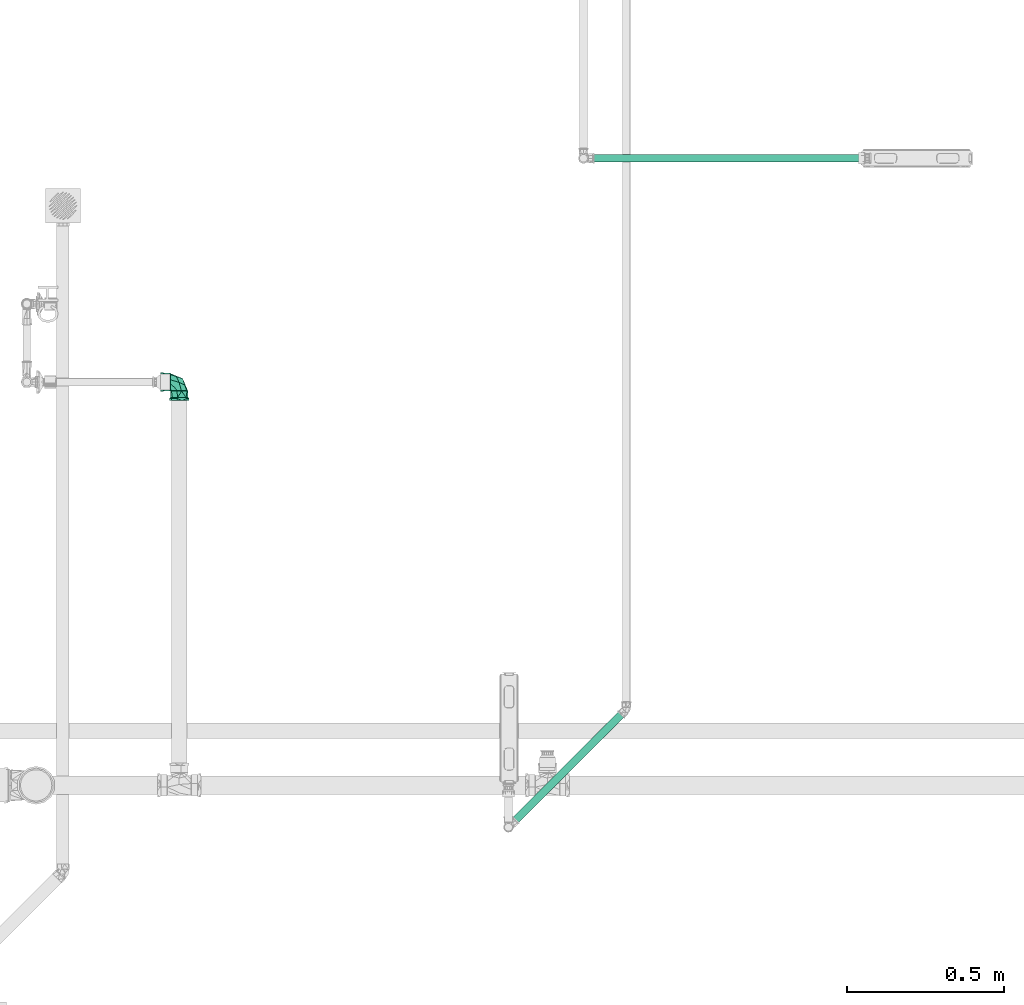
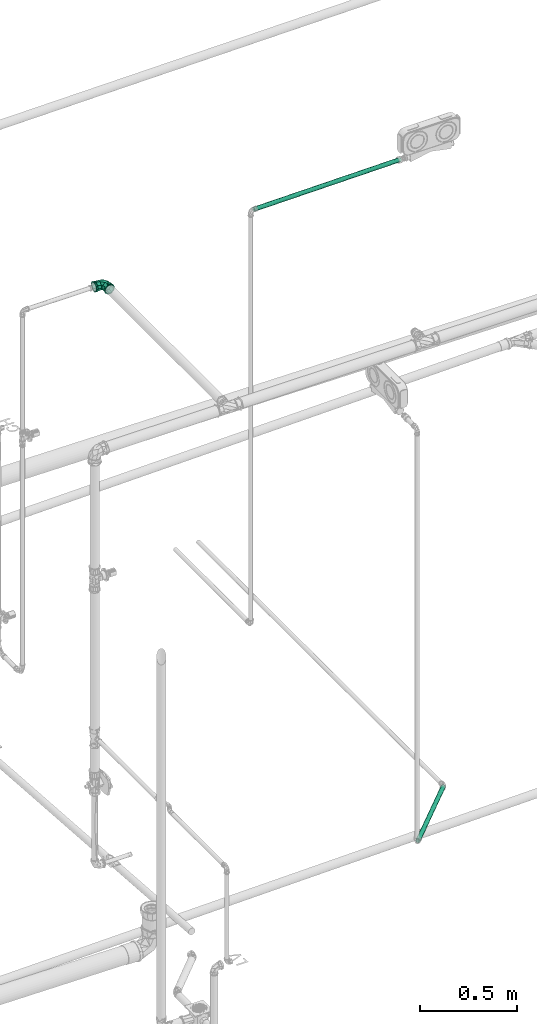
# One storey, part 95 of 589: 2 flow segments, 1 flow fitting.
"""IFC2X3 building model written with IfcOpenShell, lengths in millimetres."""

import ifcopenshell
import ifcopenshell.guid

model = None  # the IFC model being written
_history = None  # IfcOwnerHistory: only IFC2X3 demands one
_inside = {}  # id of a spatial element -> (the spatial element, [elements in it])
_under = {}  # id of a project, library or spatial element -> (it, [spatial elements below it])
_declared = {}  # id of a project -> (the project, [libraries it declares])
_typed = {}  # id of a type object -> (the type object, [elements of that type])
_made_of = {}  # id of a material, layer set ... -> (it, [elements and type objects made of it])


def new_model(schema):
    """Start an empty IFC model of exactly this schema.

    Asked for "IFC4X3", IfcOpenShell would pick the latest addendum, in which some entities
    have other attributes; the version numbers below select the first issue.
    IFC2X3 requires an IfcOwnerHistory on every rooted entity: one is made here for all.
    """
    global model, _history
    if schema == "IFC4X3":
        model = ifcopenshell.file(schema_version=(4, 3, 0, 0))
    else:
        model = ifcopenshell.file(schema=schema)
    _inside.clear()
    _under.clear()
    _declared.clear()
    _typed.clear()
    _made_of.clear()
    _history = None
    if model.schema == "IFC2X3":
        org = make("IfcOrganization", Name="unknown")
        user = make(
            "IfcPersonAndOrganization",
            ThePerson=make("IfcPerson", FamilyName="unknown"),
            TheOrganization=org,
        )
        app = make(
            "IfcApplication",
            ApplicationDeveloper=org,
            Version="unknown",
            ApplicationFullName="unknown",
            ApplicationIdentifier="unknown",
        )
        _history = make(
            "IfcOwnerHistory",
            OwningUser=user,
            OwningApplication=app,
            ChangeAction="ADDED",
            CreationDate=0,
        )
    return model


def make(cls, **values):
    """One entity of the class cls with the attributes given. An attribute that is None is left unset."""
    return model.create_entity(
        cls, **{name: value for name, value in values.items() if value is not None}
    )


def entity(cls, *values):
    """Any entity or typed value of the class cls, its attributes in the order of the schema. None: left unset."""
    e = model.create_entity(cls)
    for i, value in enumerate(values):
        if value is not None:
            e[i] = value
    return e


def rooted(cls, **values):
    """An entity with a GlobalId (a new one), such as an element, a storey or a relation."""
    return make(cls, GlobalId=ifcopenshell.guid.new(), OwnerHistory=_history, **values)


def si_unit(unit_type, name, prefix=None):
    """IfcSIUnit, for example si_unit("LENGTHUNIT", "METRE", prefix="MILLI")."""
    return make("IfcSIUnit", UnitType=unit_type, Prefix=prefix, Name=name)


def converted_unit(unit_type, name, factor, base, dimensions=None, offset=None):
    """IfcConversionBasedUnit, such as the inch: factor (a typed value) times the base unit."""
    return make(
        "IfcConversionBasedUnit"
        if offset is None
        else "IfcConversionBasedUnitWithOffset",
        ConversionOffset=offset,
        Dimensions=None
        if dimensions is None
        else entity("IfcDimensionalExponents", *dimensions),
        UnitType=unit_type,
        Name=name,
        ConversionFactor=make(
            "IfcMeasureWithUnit", ValueComponent=factor, UnitComponent=base
        ),
    )


def derived_unit(unit_type, elements):
    """IfcDerivedUnit: a product of units, each with its exponent."""
    return make(
        "IfcDerivedUnit",
        Elements=[
            make("IfcDerivedUnitElement", Unit=unit, Exponent=power)
            for unit, power in elements
        ],
        UnitType=unit_type,
    )


def assignment(units):
    """IfcUnitAssignment: the units of a project."""
    return None if units is None else make("IfcUnitAssignment", Units=units)


def point(xyz):
    """IfcCartesianPoint."""
    return None if xyz is None else make("IfcCartesianPoint", Coordinates=xyz)


def direction(xyz):
    """IfcDirection."""
    return None if xyz is None else make("IfcDirection", DirectionRatios=xyz)


def frame(location, z_axis=None, x_axis=None):
    """IfcAxis2Placement3D, a coordinate frame: its origin and axes. An axis left out is left unset."""
    return make(
        "IfcAxis2Placement3D",
        Location=point(location),
        Axis=direction(z_axis),
        RefDirection=direction(x_axis),
    )


def frame_2d(location, x_axis=None):
    """IfcAxis2Placement2D, a coordinate frame in the plane: its origin and x axis."""
    return make(
        "IfcAxis2Placement2D", Location=point(location), RefDirection=direction(x_axis)
    )


def origin():
    """The frame at (0, 0, 0) with its axes left unset."""
    return frame((0.0, 0.0, 0.0))


def origin_2d_with_axis():
    """The frame at (0, 0) in the plane with the x axis (1, 0) written out."""
    return frame_2d((0.0, 0.0), x_axis=(1.0, 0.0))


def place(relative_to, where):
    """IfcLocalPlacement: puts the frame where relative to a parent placement (None: the world)."""
    return make(
        "IfcLocalPlacement", PlacementRelTo=relative_to, RelativePlacement=where
    )


def context(
    kind, dimensions, precision=None, world=None, true_north=None, identifier=None
):
    """IfcGeometricRepresentationContext, for example the 3D "Model" context."""
    return make(
        "IfcGeometricRepresentationContext",
        ContextIdentifier=identifier,
        ContextType=kind,
        CoordinateSpaceDimension=dimensions,
        Precision=precision,
        WorldCoordinateSystem=world,
        TrueNorth=true_north,
    )


def subcontext(parent, identifier, kind, view, scale=None):
    """IfcGeometricRepresentationSubContext, for example "Body" below "Model"."""
    return make(
        "IfcGeometricRepresentationSubContext",
        ContextIdentifier=identifier,
        ContextType=kind,
        ParentContext=parent,
        TargetScale=scale,
        TargetView=view,
    )


def project(units=None, contexts=None):
    """IfcProject with its units and contexts."""
    return rooted(
        "IfcProject",
        Name="project",
        RepresentationContexts=contexts,
        UnitsInContext=assignment(units),
    )


def spatial(cls, under=None, at=None, **own):
    """A site, building, storey or space (cls), placed at a placement, below another one or the project."""
    s = rooted(cls, ObjectPlacement=at, **own)
    if under is not None:
        _under.setdefault(under.id(), (under, []))[1].append(s)
    return s


def profile(cls, at=None, kind="AREA", **sizes):
    """A parametric profile (cls). Its sizes go by their IFC names, for example OverallWidth=200.0."""
    return make(cls, ProfileType=kind, Position=at, **sizes)


def circle(**sizes):
    """IfcCircleProfileDef."""
    return profile("IfcCircleProfileDef", **sizes)


def extrude(swept, where, along, depth):
    """IfcExtrudedAreaSolid: the profile swept, set in the frame where, extruded along a direction by depth."""
    return make(
        "IfcExtrudedAreaSolid",
        SweptArea=swept,
        Position=where,
        ExtrudedDirection=direction(along),
        Depth=depth,
    )


def faces_of(points, faces, orient=None, outer=None):
    """IfcFace entities. A face is a list of loops; a loop is a list of indices into points, from 0.

    orient and outer hold one flag for each loop. By default every Orientation is true, the
    first loop of a face is its IfcFaceOuterBound and the others are IfcFaceBound.
    """
    made = []
    for i, loops in enumerate(faces):
        bounds = []
        for j, loop in enumerate(loops):
            is_outer = j == 0 if outer is None else outer[i][j]
            bounds.append(
                make(
                    "IfcFaceOuterBound" if is_outer else "IfcFaceBound",
                    Bound=make("IfcPolyLoop", Polygon=[points[k] for k in loop]),
                    Orientation=True if orient is None else orient[i][j],
                )
            )
        made.append(make("IfcFace", Bounds=bounds))
    return made


def faceted_brep(points, faces, orient=None, outer=None, voids=None):
    """IfcFacetedBrep: a solid bounded by flat faces; with voids (closed shells), ...WithVoids."""
    shared = [point(p) for p in points]
    hull = make("IfcClosedShell", CfsFaces=faces_of(shared, faces, orient, outer))
    if voids is None:
        return make("IfcFacetedBrep", Outer=hull)
    return make(
        "IfcFacetedBrepWithVoids",
        Outer=hull,
        Voids=[
            make(cls, CfsFaces=faces_of(shared, fs, o, b)) for cls, fs, o, b in voids
        ],
    )


def shape(context_of_items, identifier, shape_type, items):
    """IfcShapeRepresentation: the items that make up one representation, for example the "Body"."""
    return make(
        "IfcShapeRepresentation",
        ContextOfItems=context_of_items,
        RepresentationIdentifier=identifier,
        RepresentationType=shape_type,
        Items=items,
    )


def source(mapping_origin, context_of_items, identifier, shape_type, items):
    """IfcRepresentationMap: a shape defined once, which mapped items show again and again."""
    return make(
        "IfcRepresentationMap",
        MappingOrigin=mapping_origin,
        MappedRepresentation=shape(context_of_items, identifier, shape_type, items),
    )


def transform(
    local_origin,
    x_axis=None,
    y_axis=None,
    z_axis=None,
    scale=None,
    scale2=None,
    scale3=None,
    uniform=True,
):
    """IfcCartesianTransformationOperator3D, or its non-uniform kind. x_axis, y_axis, z_axis: its Axis1, 2, 3."""
    if uniform:
        return make(
            "IfcCartesianTransformationOperator3D",
            Axis1=direction(x_axis),
            Axis2=direction(y_axis),
            LocalOrigin=point(local_origin),
            Scale=scale,
            Axis3=direction(z_axis),
        )
    return make(
        "IfcCartesianTransformationOperator3DnonUniform",
        Axis1=direction(x_axis),
        Axis2=direction(y_axis),
        LocalOrigin=point(local_origin),
        Scale=scale,
        Axis3=direction(z_axis),
        Scale2=scale2,
        Scale3=scale3,
    )


def mapped(mapping_source, mapping_target):
    """IfcMappedItem: shows the shape of a source again, moved by a transform."""
    return make(
        "IfcMappedItem", MappingSource=mapping_source, MappingTarget=mapping_target
    )


def material(Name=None, Category=None):
    """IfcMaterial."""
    return make("IfcMaterial", Name=Name, Category=Category)


def made_of(thing, what):
    """Note that an element or type object is made of a material, layer set ...; save() writes the relation."""
    if what is not None:
        _made_of.setdefault(what.id(), (what, []))[1].append(thing)
    return thing


def type_object(cls, material=None, **own):
    """A type object (cls), such as IfcWallType, which elements share."""
    return made_of(rooted(cls, **own), material)


def type_shapes(of_type, sources):
    """Give a type object the sources (RepresentationMaps) that its elements show as mapped items."""
    of_type.RepresentationMaps = sources


def element(
    cls,
    number,
    at=None,
    inside=None,
    cuts=None,
    type_object=None,
    material=None,
    context=None,
    identifier="Body",
    shape_type=None,
    held_by="IfcProductDefinitionShape",
    body=None,
    shapes=None,
    **own,
):
    """One element of the class cls, such as IfcWall. Its Tag is "e" and its number.

    at: its placement. inside: the storey or other place that contains it. cuts: it is an
    opening in that element (IfcRelVoidsElement). A single representation is given by context,
    identifier, shape_type and body (its items); several are given by shapes. held_by: the class
    of the entity that holds the representations. save() writes the other relations.
    """
    e = rooted(cls, Tag="e%d" % number, ObjectPlacement=at, **own)
    if body is not None:
        shapes = [shape(context, identifier, shape_type, body)]
    if shapes is not None:
        e.Representation = make(held_by, Representations=shapes)
    if inside is not None:
        _inside.setdefault(inside.id(), (inside, []))[1].append(e)
    if cuts is not None:
        rooted(
            "IfcRelVoidsElement", RelatingBuildingElement=cuts, RelatedOpeningElement=e
        )
    if type_object is not None:
        _typed.setdefault(type_object.id(), (type_object, []))[1].append(e)
    return made_of(e, material)


def aggregate(whole, parts):
    """IfcRelAggregates: a whole, such as a stair, and the parts it consists of."""
    return rooted("IfcRelAggregates", RelatingObject=whole, RelatedObjects=parts)


def save(model, path):
    """Write the relations noted so far, then the file.

    IfcRelAggregates (storeys below a building ...), IfcRelContainedInSpatialStructure (elements
    in a storey), IfcRelDefinesByType, IfcRelAssociatesMaterial and IfcRelDeclares: one each for
    every whole, place, type object, material and project.
    """
    for whole, parts in _under.values():
        aggregate(whole, parts)
    for where, things in _inside.values():
        rooted(
            "IfcRelContainedInSpatialStructure",
            RelatedElements=things,
            RelatingStructure=where,
        )
    for kind, things in _typed.values():
        rooted("IfcRelDefinesByType", RelatedObjects=things, RelatingType=kind)
    for what, things in _made_of.values():
        rooted("IfcRelAssociatesMaterial", RelatedObjects=things, RelatingMaterial=what)
    for by, libraries in _declared.values():
        rooted("IfcRelDeclares", RelatingContext=by, RelatedDefinitions=libraries)
    model.write(path)


model = new_model("IFC2X3")

# Units and contexts
model_context = context("Model", 3, precision=0.01, world=origin(), true_north=direction((6.123031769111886e-17, 1.0)))
body_context = subcontext(model_context, "Body", "Model", "MODEL_VIEW")
ifc_project = project(units=[si_unit("LENGTHUNIT", "METRE", prefix="MILLI"), si_unit("AREAUNIT", "SQUARE_METRE"), si_unit("VOLUMEUNIT", "CUBIC_METRE"), converted_unit("PLANEANGLEUNIT", "DEGREE", entity("IfcRatioMeasure", 0.017453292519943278), si_unit("PLANEANGLEUNIT", "RADIAN"), dimensions=[0, 0, 0, 0, 0, 0, 0]), si_unit("MASSUNIT", "GRAM", prefix="KILO"), derived_unit("MASSDENSITYUNIT", [(si_unit("MASSUNIT", "GRAM", prefix="KILO"), 1), (si_unit("LENGTHUNIT", "METRE"), -3)]), derived_unit("IONCONCENTRATIONUNIT", [(si_unit("MASSUNIT", "GRAM", prefix="KILO"), 1), (si_unit("LENGTHUNIT", "METRE"), -3)]), derived_unit("MOMENTOFINERTIAUNIT", [(si_unit("LENGTHUNIT", "METRE"), 4)]), si_unit("TIMEUNIT", "SECOND"), si_unit("FREQUENCYUNIT", "HERTZ"), si_unit("THERMODYNAMICTEMPERATUREUNIT", "DEGREE_CELSIUS"), derived_unit("THERMALTRANSMITTANCEUNIT", [(si_unit("MASSUNIT", "GRAM", prefix="KILO"), 1), (si_unit("THERMODYNAMICTEMPERATUREUNIT", "KELVIN"), -1), (si_unit("TIMEUNIT", "SECOND"), -3)]), derived_unit("THERMALCONDUCTANCEUNIT", [(si_unit("MASSUNIT", "GRAM", prefix="KILO"), 1), (si_unit("THERMODYNAMICTEMPERATUREUNIT", "KELVIN"), -1), (si_unit("TIMEUNIT", "SECOND"), -3), (si_unit("LENGTHUNIT", "METRE"), 1)]), derived_unit("VOLUMETRICFLOWRATEUNIT", [(si_unit("LENGTHUNIT", "METRE"), 3), (si_unit("TIMEUNIT", "SECOND"), -1)]), derived_unit("MASSFLOWRATEUNIT", [(si_unit("MASSUNIT", "GRAM", prefix="KILO"), 1), (si_unit("TIMEUNIT", "SECOND"), -1)]), derived_unit("ROTATIONALFREQUENCYUNIT", [(si_unit("TIMEUNIT", "SECOND"), -1)]), si_unit("ELECTRICCURRENTUNIT", "AMPERE"), si_unit("ELECTRICVOLTAGEUNIT", "VOLT"), si_unit("POWERUNIT", "WATT"), si_unit("FORCEUNIT", "NEWTON", prefix="KILO"), si_unit("ILLUMINANCEUNIT", "LUX"), si_unit("LUMINOUSFLUXUNIT", "LUMEN"), si_unit("LUMINOUSINTENSITYUNIT", "CANDELA"), derived_unit("USERDEFINED", [(si_unit("MASSUNIT", "GRAM", prefix="KILO"), -1), (si_unit("LENGTHUNIT", "METRE"), -2), (si_unit("TIMEUNIT", "SECOND"), 3), (si_unit("LUMINOUSFLUXUNIT", "LUMEN"), 1)]), derived_unit("USERDEFINED", [(si_unit("MASSUNIT", "GRAM", prefix="KILO"), 1), (si_unit("TIMEUNIT", "SECOND"), -3), (si_unit("LENGTHUNIT", "METRE"), 3), (si_unit("ELECTRICCURRENTUNIT", "AMPERE"), -2)]), derived_unit("SOUNDPOWERUNIT", [(si_unit("MASSUNIT", "GRAM", prefix="KILO"), 1), (si_unit("TIMEUNIT", "SECOND"), -3), (si_unit("LENGTHUNIT", "METRE"), 2)]), derived_unit("SOUNDPRESSUREUNIT", [(si_unit("MASSUNIT", "GRAM", prefix="KILO"), 1), (si_unit("LENGTHUNIT", "METRE"), -1), (si_unit("TIMEUNIT", "SECOND"), -2)]), derived_unit("LINEARVELOCITYUNIT", [(si_unit("LENGTHUNIT", "METRE"), 1), (si_unit("TIMEUNIT", "SECOND"), -1)]), si_unit("PRESSUREUNIT", "PASCAL"), derived_unit("USERDEFINED", [(si_unit("MASSUNIT", "GRAM", prefix="KILO"), 1), (si_unit("LENGTHUNIT", "METRE"), -2), (si_unit("TIMEUNIT", "SECOND"), -2)]), derived_unit("LINEARFORCEUNIT", [(si_unit("MASSUNIT", "GRAM", prefix="KILO"), 1), (si_unit("TIMEUNIT", "SECOND"), -2)]), derived_unit("PLANARFORCEUNIT", [(si_unit("MASSUNIT", "GRAM", prefix="KILO"), 1), (si_unit("LENGTHUNIT", "METRE"), -1), (si_unit("TIMEUNIT", "SECOND"), -2)]), derived_unit("SPECIFICHEATCAPACITYUNIT", [(si_unit("THERMODYNAMICTEMPERATUREUNIT", "KELVIN"), -1), (si_unit("LENGTHUNIT", "METRE"), 2), (si_unit("TIMEUNIT", "SECOND"), -2)]), derived_unit("HEATINGVALUEUNIT", [(si_unit("LENGTHUNIT", "METRE"), 2), (si_unit("TIMEUNIT", "SECOND"), -2)]), derived_unit("VAPORPERMEABILITYUNIT", [(si_unit("LENGTHUNIT", "METRE"), -1), (si_unit("TIMEUNIT", "SECOND"), 1)]), derived_unit("DYNAMICVISCOSITYUNIT", [(si_unit("MASSUNIT", "GRAM", prefix="KILO"), 1), (si_unit("TIMEUNIT", "SECOND"), -1), (si_unit("LENGTHUNIT", "METRE"), -1)]), derived_unit("THERMALEXPANSIONCOEFFICIENTUNIT", [(si_unit("THERMODYNAMICTEMPERATUREUNIT", "KELVIN"), -1)]), derived_unit("MODULUSOFELASTICITYUNIT", [(si_unit("MASSUNIT", "GRAM", prefix="KILO"), 1), (si_unit("LENGTHUNIT", "METRE"), -1), (si_unit("TIMEUNIT", "SECOND"), -2)]), derived_unit("ISOTHERMALMOISTURECAPACITYUNIT", [(si_unit("LENGTHUNIT", "METRE"), 3), (si_unit("MASSUNIT", "GRAM", prefix="KILO"), -1)]), derived_unit("MOISTUREDIFFUSIVITYUNIT", [(si_unit("TIMEUNIT", "SECOND"), -1), (si_unit("LENGTHUNIT", "METRE"), 2)])], contexts=[model_context])

# Site, building, storey
site_placement = place(None, origin())
site = spatial("IfcSite", under=ifc_project, at=site_placement, Name="Default", CompositionType="ELEMENT")
building_placement = place(site_placement, origin())
building = spatial("IfcBuilding", under=site, at=building_placement, CompositionType="ELEMENT")
storey_placement = place(building_placement, frame((0.0, 0.0, 100.0)))
storey = spatial("IfcBuildingStorey", under=building, at=storey_placement, Name="TÉRREO", CompositionType="ELEMENT", Elevation=100.0)

# Flow segments
pipe_segment_type = type_object("IfcPipeSegmentType", Name="Tipos de tubos:PVC Marrom Soldável", PredefinedType="NOTDEFINED")
flow_segment_1_placement = place(storey_placement, origin())
element("IfcFlowSegment", 1, at=flow_segment_1_placement, inside=storey, type_object=pipe_segment_type, Name="Tipos de tubos:PVC Marrom Soldável", ObjectType="Tipos de tubos:PVC Marrom Soldável", context=body_context, shape_type="SweptSolid", body=[
    extrude(circle(Radius=12.5, at=origin_2d_with_axis()), frame((-5457.676437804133, 1472.3181323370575, 2577.9470883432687), z_axis=(0.9999500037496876, 0.0, 0.00999950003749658), x_axis=(0.0, 1.0, 0.0)), (0.0, 0.0, 1.0), 877.005019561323),
])
flow_segment_2_placement = place(storey_placement, origin())
element("IfcFlowSegment", 2, at=flow_segment_2_placement, inside=storey, type_object=pipe_segment_type, Name="Tipos de tubos:PVC Marrom Soldável", ObjectType="Tipos de tubos:PVC Marrom Soldável", context=body_context, shape_type="SweptSolid", body=[
    extrude(circle(Radius=12.5, at=frame_2d((1.4832924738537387e-24, -8.459899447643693e-15), x_axis=(1.0, 0.0))), frame((-5701.626371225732, -650.9574421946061, -37.35980794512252), z_axis=(0.7071070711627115, 0.7071064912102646, 0.0), x_axis=(0.7071064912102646, -0.7071070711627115, 0.0)), (0.0, 0.0, 1.0), 507.80325017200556),
])

# Flow fitting
ifc_material = material(Name="PVC Marrom")
pipe_fitting_type = type_object("IfcPipeFittingType", Name="PVC Marrom Soldável_Joelho 45°_90°_Rodrigo MEP:Joelho", PredefinedType="NOTDEFINED", material=ifc_material)
shared_shape = source(origin(), body_context, "Body", "Brep", [
    faceted_brep([(-28.650000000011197, 29.100000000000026, 0.0), (-24.811627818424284, 29.100000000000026, 14.324999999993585), (-16.11339673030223, 29.100000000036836, 20.999387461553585), (-7.415165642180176, 29.10000000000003, 27.673774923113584), (7.415165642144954, 29.100000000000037, 27.67377492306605), (16.113396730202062, 29.100000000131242, 20.99938746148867), (24.811627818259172, 29.100000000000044, 14.324999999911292), (28.649999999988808, 29.100000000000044, 0.0), (24.811627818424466, 29.100000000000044, -14.32500000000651), (16.113396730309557, 29.09999999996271, -20.99938746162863), (7.41516564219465, 29.100000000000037, -27.673774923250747), (-7.4151656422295, 29.10000000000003, -27.673774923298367), (-16.11339673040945, 29.099999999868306, -20.999387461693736), (-24.811627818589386, 29.100000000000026, -14.325000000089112), (7.026937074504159, 27.400000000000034, 26.2248861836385), (-7.026937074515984, 27.400000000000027, 26.224886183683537), (-15.269763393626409, 27.400000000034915, 19.899943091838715), (-23.512589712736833, 27.400000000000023, 13.574999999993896), (-27.150000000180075, 27.400000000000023, 0.0), (-23.512589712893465, 27.400000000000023, -13.575000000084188), (-15.269763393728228, 27.39999999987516, -19.899943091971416), (-7.02693707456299, 27.400000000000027, -26.224886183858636), (7.026937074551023, 27.400000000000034, -26.224886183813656), (15.269763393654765, 27.399999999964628, -19.899943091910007), (23.51258971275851, 27.40000000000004, -13.575000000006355), (27.149999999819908, 27.40000000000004, 0.0), (23.512589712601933, 27.40000000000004, 13.574999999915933), (15.269763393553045, 27.400000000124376, 19.899943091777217)], [[[0, 1, 2, 3, 4, 5, 6, 7, 8, 9, 10, 11, 12, 13]], [[14, 15, 16, 17, 18, 19, 20, 21, 22, 23, 24, 25, 26, 27]], [[8, 7, 25, 24]], [[10, 9, 8, 24, 23, 22]], [[20, 19, 13, 12, 11, 21]], [[22, 21, 11, 10]], [[0, 13, 19, 18]], [[1, 0, 18, 17]], [[3, 2, 1, 17, 16, 15]], [[27, 26, 6, 5, 4, 14]], [[15, 14, 4, 3]], [[7, 6, 26, 25]]]),
    faceted_brep([(-29.09999999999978, -28.650000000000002, 0.0), (-29.09999999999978, -24.811627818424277, 14.32500000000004), (-29.09999999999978, -16.113396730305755, 20.99938746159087), (-29.09999999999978, -7.415165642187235, 27.673774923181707), (-29.09999999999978, 7.415165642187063, 27.6737749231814), (-29.10000000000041, 16.113396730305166, 20.999387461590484), (-29.09999999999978, 24.81162781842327, 14.324999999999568), (-29.09999999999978, 28.649999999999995, 0.0), (-29.09999999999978, 24.811627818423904, -14.324999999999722), (-29.10000000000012, 16.11339673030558, -20.999387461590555), (-29.09999999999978, 7.415165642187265, -27.67377492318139), (-29.09999999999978, -7.415165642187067, -27.67377492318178), (-29.099999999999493, -16.113396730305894, -20.99938746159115), (-29.09999999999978, -24.81162781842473, -14.325000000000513), (-27.39999999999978, 23.512589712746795, 13.574999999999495), (-27.40000000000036, 15.269763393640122, 19.89994309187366), (-27.39999999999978, 7.026937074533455, 26.22488618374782), (-27.39999999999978, -7.02693707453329, 26.224886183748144), (-27.399999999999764, -15.269763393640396, 19.89994309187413), (-27.39999999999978, -23.512589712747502, 13.575000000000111), (-27.39999999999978, -27.150000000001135, 0.0), (-27.39999999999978, -23.51258971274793, -13.575000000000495), (-27.399999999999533, -15.269763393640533, -19.899943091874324), (-27.39999999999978, -7.026937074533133, -26.224886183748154), (-27.39999999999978, 7.026937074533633, -26.22488618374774), (-27.400000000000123, 15.269763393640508, -19.899943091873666), (-27.39999999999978, 23.512589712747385, -13.574999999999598), (-27.39999999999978, 27.149999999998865, 0.0)], [[[0, 1, 2, 3, 4, 5, 6, 7, 8, 9, 10, 11, 12, 13]], [[14, 15, 16, 17, 18, 19, 20, 21, 22, 23, 24, 25, 26, 27]], [[8, 7, 27, 26]], [[10, 9, 8, 26, 25, 24]], [[22, 21, 13, 12, 11, 23]], [[24, 23, 11, 10]], [[0, 13, 21, 20]], [[1, 0, 20, 19]], [[3, 2, 1, 19, 18, 17]], [[15, 14, 6, 5, 4, 16]], [[17, 16, 4, 3]], [[7, 6, 14, 27]]]),
    faceted_brep([(-59.59999999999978, -7.958685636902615, -29.702219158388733), (-59.59999999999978, 0.0, -25.0), (-59.59999999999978, 7.958685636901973, -29.702219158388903), (-59.59999999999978, -12.500000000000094, -21.650635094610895), (-59.59999999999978, -26.630281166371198, -15.375000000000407), (-59.59999999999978, -24.148145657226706, -6.4704761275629), (-59.59999999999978, -30.749999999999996, 0.0), (-59.59999999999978, -24.148145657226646, 6.470476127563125), (-59.59999999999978, -26.630281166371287, 15.37499999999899), (-59.59999999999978, -12.499999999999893, 21.65063509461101), (-59.59999999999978, -7.958685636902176, 29.702219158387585), (-59.59999999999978, 0.0, 25.0), (-59.59999999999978, 7.958685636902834, 29.70221915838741), (-59.59999999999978, 12.499999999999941, 21.650635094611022), (-59.59999999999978, 26.630281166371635, 15.374999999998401), (-59.59999999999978, 24.14814565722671, 6.470476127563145), (-59.59999999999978, 30.750000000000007, 0.0), (-59.59999999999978, 24.14814565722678, -6.470476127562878), (-59.59999999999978, 26.63028116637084, -15.375000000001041), (-59.59999999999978, 12.500000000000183, -21.65063509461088), (-52.09999999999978, 30.750000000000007, 0.0), (-52.10000000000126, 23.555335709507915, 19.76635170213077), (-52.100000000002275, 5.338054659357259, 30.28312520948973), (-52.10000000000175, -23.557724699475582, 19.763504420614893), (-52.09999999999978, -30.749999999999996, 0.0), (-52.10000000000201, -9.109835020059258, 25.023314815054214), (-52.09999999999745, -23.557724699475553, -19.76350442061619), (-52.09999999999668, -5.34171494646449, -30.28247977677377), (-52.09999999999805, 23.5553357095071, -19.766351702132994), (-52.09999999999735, 9.106810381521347, -25.02441573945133), (-49.10000000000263, 4.971874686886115, 28.21529659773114), (-49.09999999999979, -28.650000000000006, 0.0), (-49.100000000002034, -21.95076584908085, 18.41158273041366), (-49.10000000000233, -8.489445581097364, 23.3134396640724), (-49.100000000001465, 21.94614669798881, 18.417088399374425), (-49.0999999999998, 28.649999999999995, 0.0), (-49.09999999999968, 21.946146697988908, -18.41708839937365), (-49.09999999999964, 8.483597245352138, -23.31556846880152), (-49.09999999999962, -21.95076584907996, -18.411582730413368), (-49.099999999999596, -4.978952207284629, -28.214048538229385), (-29.09999999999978, -12.500000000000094, -21.650635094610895), (-29.09999999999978, -7.415165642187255, -27.6737749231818), (-29.09999999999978, 0.0, -25.0), (-29.09999999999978, -24.811627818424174, -14.324999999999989), (-29.09999999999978, -24.148145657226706, -6.4704761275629), (-29.09999999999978, -28.650000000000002, 0.0), (-29.09999999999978, -24.148145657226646, 6.470476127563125), (-29.09999999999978, -24.811627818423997, 14.3250000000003), (-29.09999999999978, -12.499999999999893, 21.65063509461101), (-29.09999999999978, -7.41516564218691, 27.67377492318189), (-29.09999999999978, 0.0, 25.0), (-29.09999999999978, 7.415165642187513, 27.67377492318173), (-29.09999999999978, 12.499999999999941, 21.650635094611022), (-29.09999999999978, 24.811627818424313, 14.32499999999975), (-29.09999999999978, 24.14814565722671, 6.470476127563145), (-29.09999999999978, 28.650000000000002, 0.0), (-29.09999999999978, 24.14814565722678, -6.470476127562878), (-29.09999999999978, 24.81162781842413, -14.325000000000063), (-29.09999999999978, 12.500000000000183, -21.65063509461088), (-29.09999999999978, 7.415165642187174, -27.67377492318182)], [[[0, 1, 2]], [[1, 0, 3]], [[4, 3, 0]], [[3, 4, 5]], [[5, 4, 6]], [[7, 5, 6]], [[7, 6, 8]], [[8, 9, 7]], [[8, 10, 9]], [[9, 10, 11]], [[12, 11, 10]], [[13, 11, 12]], [[13, 12, 14]], [[14, 15, 13]], [[15, 14, 16]], [[15, 16, 17]], [[18, 17, 16]], [[2, 19, 18]], [[17, 18, 19]], [[19, 2, 1]], [[16, 14, 20]], [[14, 21, 20]], [[21, 14, 12]], [[21, 12, 22]], [[23, 10, 8]], [[24, 8, 6]], [[10, 23, 25, 22]], [[23, 8, 24]], [[10, 22, 12]], [[6, 4, 24]], [[4, 26, 24]], [[26, 4, 0]], [[26, 0, 27]], [[28, 2, 18]], [[20, 18, 16]], [[2, 28, 29, 27]], [[28, 18, 20]], [[2, 27, 0]], [[25, 30, 22]], [[31, 32, 24]], [[24, 32, 23]], [[23, 33, 25]], [[34, 35, 21]], [[23, 32, 33]], [[21, 22, 34]], [[20, 21, 35]], [[30, 25, 33]], [[34, 22, 30]], [[35, 36, 28]], [[28, 20, 35]], [[36, 29, 28]], [[36, 37, 29]], [[37, 27, 29]], [[38, 31, 24]], [[38, 26, 39]], [[26, 38, 24]], [[27, 37, 39]], [[39, 26, 27]], [[40, 41, 42]], [[43, 41, 40]], [[40, 44, 43]], [[44, 45, 43]], [[46, 45, 44]], [[45, 46, 47]], [[48, 47, 46]], [[47, 48, 49]], [[50, 49, 48]], [[51, 49, 50]], [[52, 51, 50]], [[51, 52, 53]], [[54, 53, 52]], [[53, 54, 55]], [[55, 54, 56]], [[55, 56, 57]], [[57, 56, 58]], [[58, 42, 59]], [[59, 57, 58]], [[41, 59, 42]], [[35, 34, 53]], [[35, 53, 55]], [[53, 34, 51]], [[34, 30, 51]], [[49, 30, 33, 32]], [[47, 32, 31]], [[32, 47, 49]], [[47, 31, 45]], [[30, 49, 51]], [[31, 38, 43]], [[31, 43, 45]], [[43, 38, 41]], [[38, 39, 41]], [[59, 39, 37, 36]], [[57, 36, 35]], [[36, 57, 59]], [[57, 35, 55]], [[39, 59, 41]], [[9, 11, 50, 48]], [[7, 9, 48, 46]], [[46, 44, 5, 7]], [[3, 5, 44, 40]], [[1, 3, 40, 42]], [[19, 1, 42, 58]], [[17, 19, 58, 56]], [[56, 54, 15, 17]], [[13, 15, 54, 52]], [[11, 13, 52, 50]]]),
    faceted_brep([(-27.39999999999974, 7.026937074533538, -26.224886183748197), (-27.399999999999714, -7.026937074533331, -26.224886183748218), (-27.399999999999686, -23.51258971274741, -13.575000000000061), (-27.399999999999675, -27.149999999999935, 0.0), (-27.399999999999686, -23.512589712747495, 13.574999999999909), (-27.399999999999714, -7.026937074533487, 26.224886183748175), (-27.39999999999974, 7.026937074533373, 26.22488618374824), (-27.399999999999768, 23.512589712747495, 13.57500000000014), (-27.39999999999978, 27.150000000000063, 0.0), (-27.399999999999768, 23.51258971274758, -13.574999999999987), (-7.026937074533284, 27.399999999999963, -26.224886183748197), (-23.512589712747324, 27.40000000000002, -13.574999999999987), (-27.14999999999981, 27.40000000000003, 0.0), (-23.51258971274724, 27.40000000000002, 13.57500000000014), (-7.026937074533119, 27.399999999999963, 26.22488618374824), (7.026937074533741, 27.39999999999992, 26.224886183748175), (23.512589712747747, 27.399999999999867, 13.574999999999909), (27.15000000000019, 27.399999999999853, 0.0), (23.512589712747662, 27.399999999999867, -13.575000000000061), (7.026937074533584, 27.39999999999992, -26.224886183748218), (-0.7421356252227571, 0.7421330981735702, 25.120395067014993), (-9.561084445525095, -17.668940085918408, 17.12121907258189), (-2.9564114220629, -17.02513409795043, 0.0), (11.17267491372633, -11.172674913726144, 0.0), (17.668938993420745, 9.561081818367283, 17.12121913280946), (-27.22322330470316, 27.223223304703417, 0.0), (-15.959081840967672, 15.95908155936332, 24.723104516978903), (17.025133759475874, 2.956410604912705, 0.0), (-9.561084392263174, -17.668940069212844, -17.12121906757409), (-15.959081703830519, 15.9590814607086, -24.723104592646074), (-0.7421353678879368, 0.7421331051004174, -25.120394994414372), (17.668938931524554, 9.561081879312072, -17.121219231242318)], [[[0, 1, 2, 3, 4, 5, 6, 7, 8, 9]], [[10, 11, 12, 13, 14, 15, 16, 17, 18, 19]], [[5, 20, 6]], [[21, 4, 22]], [[23, 21, 22]], [[15, 20, 24]], [[21, 5, 4]], [[25, 7, 13]], [[23, 24, 20]], [[25, 8, 7]], [[7, 6, 26]], [[4, 3, 22]], [[20, 21, 23]], [[27, 17, 16]], [[20, 26, 6]], [[20, 5, 21]], [[24, 27, 16]], [[7, 26, 13]], [[25, 13, 12]], [[24, 16, 15]], [[20, 14, 26]], [[14, 13, 26]], [[24, 23, 27]], [[14, 20, 15]], [[28, 23, 22]], [[28, 2, 1]], [[29, 9, 11]], [[29, 30, 0]], [[3, 2, 22]], [[30, 19, 31]], [[2, 28, 22]], [[30, 1, 0]], [[23, 28, 30]], [[30, 29, 10]], [[9, 8, 25]], [[25, 12, 11]], [[23, 31, 27]], [[1, 30, 28]], [[11, 10, 29]], [[30, 10, 19]], [[18, 17, 27]], [[23, 30, 31]], [[9, 29, 0]], [[31, 19, 18]], [[18, 27, 31]], [[11, 9, 25]]]),
    faceted_brep([(-12.499999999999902, 29.100000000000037, -21.650635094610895), (-7.415165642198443, 29.100000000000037, -27.6737749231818), (0.0, 29.100000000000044, -25.0), (-24.81162781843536, 29.100000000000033, -14.324999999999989), (-24.148145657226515, 29.100000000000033, -6.4704761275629), (-28.650000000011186, 29.100000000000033, 0.0), (-24.148145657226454, 29.100000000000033, 6.470476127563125), (-24.81162781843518, 29.100000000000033, 14.3250000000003), (-12.4999999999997, 29.100000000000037, 21.65063509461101), (-7.4151656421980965, 29.100000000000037, 27.67377492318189), (0.0, 29.100000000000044, 25.0), (7.415165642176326, 29.100000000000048, 27.67377492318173), (12.500000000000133, 29.100000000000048, 21.650635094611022), (24.811627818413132, 29.10000000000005, 14.32499999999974), (24.148145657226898, 29.10000000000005, 6.470476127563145), (28.649999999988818, 29.10000000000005, 0.0), (24.148145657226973, 29.10000000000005, -6.470476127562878), (24.811627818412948, 29.10000000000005, -14.325000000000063), (12.500000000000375, 29.100000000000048, -21.65063509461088), (7.415165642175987, 29.100000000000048, -27.67377492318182), (28.64999999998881, 49.100000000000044, 0.0), (21.94614669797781, 49.10000000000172, 18.417088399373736), (8.483597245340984, 49.100000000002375, 23.315568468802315), (-4.978952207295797, 49.100000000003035, 28.2140485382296), (-21.950765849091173, 49.10000000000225, 18.41158273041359), (-28.65000000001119, 49.10000000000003, 0.0), (-21.95076584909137, 49.09999999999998, -18.411582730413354), (-8.48944558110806, 49.09999999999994, -23.313439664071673), (4.971874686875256, 49.09999999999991, -28.215296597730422), (21.94614669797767, 49.099999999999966, -18.417088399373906), (-23.55533570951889, 52.10000000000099, 19.766351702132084), (-30.750000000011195, 52.10000000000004, 0.0), (-5.33805465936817, 52.10000000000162, 30.283125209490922), (23.557724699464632, 52.10000000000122, 19.763504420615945), (9.10983502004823, 52.10000000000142, 25.023314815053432), (30.749999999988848, 52.100000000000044, 0.0), (23.557724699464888, 52.10000000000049, -19.763504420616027), (5.3417149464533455, 52.10000000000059, -30.282479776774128), (-23.55533570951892, 52.100000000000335, -19.76635170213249), (-9.106810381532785, 52.10000000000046, -25.02441573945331), (-7.958685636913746, 59.60000000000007, -29.702219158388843), (-12.499999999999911, 59.600000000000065, -21.650635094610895), (0.0, 59.60000000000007, -25.0), (-26.63028116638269, 59.600000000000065, -15.374999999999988), (7.95868563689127, 59.60000000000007, -29.702219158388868), (-24.14814565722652, 59.600000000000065, -6.4704761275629), (-30.750000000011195, 59.60000000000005, 0.0), (-24.148145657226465, 59.600000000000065, 6.470476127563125), (-26.630281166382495, 59.600000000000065, 15.375000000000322), (-12.49999999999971, 59.600000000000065, 21.65063509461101), (-7.958685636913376, 59.60000000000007, 29.70221915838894), (0.0, 59.60000000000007, 25.0), (7.958685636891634, 59.60000000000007, 29.702219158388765), (12.500000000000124, 59.60000000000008, 21.650635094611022), (26.630281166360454, 59.60000000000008, 15.374999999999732), (24.14814565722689, 59.60000000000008, 6.470476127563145), (30.74999999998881, 59.60000000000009, 0.0), (24.148145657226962, 59.60000000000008, -6.470476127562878), (26.63028116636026, 59.60000000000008, -15.37500000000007), (12.500000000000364, 59.60000000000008, -21.65063509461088)], [[[0, 1, 2]], [[3, 1, 0]], [[0, 4, 3]], [[4, 5, 3]], [[6, 5, 4]], [[5, 6, 7]], [[8, 7, 6]], [[7, 8, 9]], [[10, 9, 8]], [[11, 9, 10]], [[12, 11, 10]], [[11, 12, 13]], [[14, 13, 12]], [[13, 14, 15]], [[15, 14, 16]], [[15, 16, 17]], [[17, 16, 18]], [[18, 2, 19]], [[19, 17, 18]], [[1, 19, 2]], [[20, 21, 13]], [[20, 13, 15]], [[13, 21, 11]], [[11, 21, 22, 23]], [[9, 23, 24]], [[7, 24, 25]], [[24, 7, 9]], [[7, 25, 5]], [[23, 9, 11]], [[25, 26, 3]], [[25, 3, 5]], [[3, 26, 1]], [[1, 26, 27, 28]], [[19, 28, 29]], [[17, 29, 20]], [[29, 17, 19]], [[17, 20, 15]], [[28, 19, 1]], [[24, 23, 30]], [[25, 24, 31]], [[31, 24, 30]], [[23, 32, 30]], [[21, 20, 33]], [[21, 33, 34]], [[22, 32, 23]], [[35, 33, 20]], [[32, 22, 34]], [[22, 21, 34]], [[20, 29, 36]], [[36, 35, 20]], [[37, 36, 29]], [[38, 39, 27]], [[29, 28, 37]], [[26, 25, 31]], [[38, 27, 26]], [[38, 26, 31]], [[28, 39, 37]], [[39, 28, 27]], [[40, 41, 42]], [[41, 40, 43]], [[42, 44, 40]], [[43, 45, 41]], [[43, 46, 45]], [[45, 46, 47]], [[48, 47, 46]], [[47, 48, 49]], [[50, 49, 48]], [[49, 50, 51]], [[51, 50, 52]], [[52, 53, 51]], [[54, 53, 52]], [[53, 54, 55]], [[56, 55, 54]], [[56, 57, 55]], [[58, 57, 56]], [[59, 57, 58]], [[59, 58, 44]], [[44, 42, 59]], [[56, 54, 35]], [[54, 33, 35]], [[33, 54, 52]], [[52, 32, 34, 33]], [[30, 50, 48]], [[31, 48, 46]], [[50, 30, 32]], [[30, 48, 31]], [[50, 32, 52]], [[46, 43, 31]], [[43, 38, 31]], [[38, 43, 40]], [[40, 37, 39, 38]], [[36, 44, 58]], [[35, 58, 56]], [[44, 36, 37]], [[36, 58, 35]], [[44, 37, 40]], [[49, 51, 10, 8]], [[47, 49, 8, 6]], [[6, 4, 45, 47]], [[41, 45, 4, 0]], [[42, 41, 0, 2]], [[59, 42, 2, 18]], [[57, 59, 18, 16]], [[16, 14, 55, 57]], [[53, 55, 14, 12]], [[51, 53, 12, 10]]]),
])
type_shapes(pipe_fitting_type, [shared_shape])
flow_fitting_placement = place(storey_placement, frame((-6764.2704908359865, 758.1190686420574, 3000.0), z_axis=(0.0, 0.0, 1.0), x_axis=(0.0, 1.0, 0.0)))
element("IfcFlowFitting", 3, at=flow_fitting_placement, inside=storey, type_object=pipe_fitting_type, material=ifc_material, Name="PVC Marrom Soldável_Joelho 45°_90°_Rodrigo MEP:Joelho", ObjectType="PVC Marrom Soldável_Joelho 45°_90°_Rodrigo MEP:Joelho", context=body_context, shape_type="MappedRepresentation", body=[
    mapped(shared_shape, transform((0.0, 0.0, 0.0), scale=1.0)),
])

save(model, "model.ifc")
